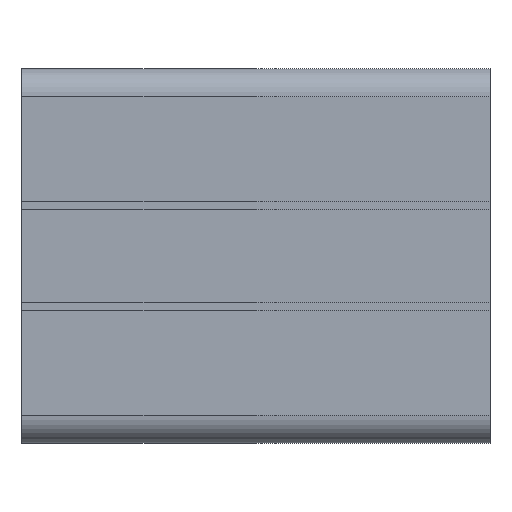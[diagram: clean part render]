
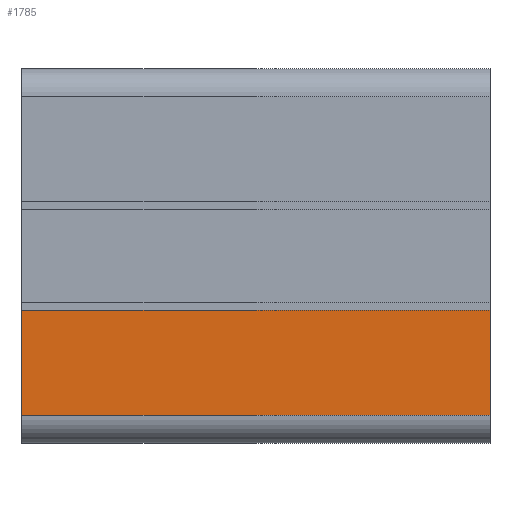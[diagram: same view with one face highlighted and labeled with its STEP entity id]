
A CAD part, front view. The second image highlights one B-rep face of the part: STEP entity #1785.
In plain terms, the highlighted planar face has unit normal (0, -1, 0).
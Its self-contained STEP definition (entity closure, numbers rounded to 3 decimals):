
#1785=ADVANCED_FACE('',(#5035),#5036,.T.);
#1991=EDGE_CURVE('',#4435,#2537,#5254,.T.);
#2537=VERTEX_POINT('',#5844);
#2901=VERTEX_POINT('',#6243);
#3099=VERTEX_POINT('',#6464);
#3443=EDGE_CURVE('',#4435,#3099,#6847,.T.);
#3655=EDGE_CURVE('',#2901,#2537,#7073,.T.);
#4333=EDGE_CURVE('',#3099,#2901,#7807,.T.);
#4435=VERTEX_POINT('',#7918);
#5035=FACE_OUTER_BOUND('',#8624,.T.);
#5036=PLANE('',#8625);
#5254=LINE('',#8957,#8958);
#5844=CARTESIAN_POINT('',(50.0,-60.0,-5.8));
#6243=CARTESIAN_POINT('',(50.0,-60.0,-17.0));
#6464=CARTESIAN_POINT('',(0.0,-60.0,-17.0));
#6847=LINE('',#11221,#11222);
#7073=LINE('',#11542,#11543);
#7807=LINE('',#12631,#12632);
#7918=CARTESIAN_POINT('',(0.0,-60.0,-5.8));
#8624=EDGE_LOOP('',(#13599,#13600,#13601,#13602));
#8625=AXIS2_PLACEMENT_3D('',#13603,#13604,#13605);
#8957=CARTESIAN_POINT('',(0.0,-60.0,-5.8));
#8958=VECTOR('',#13771,1.0);
#11221=CARTESIAN_POINT('',(0.0,-60.0,-5.8));
#11222=VECTOR('',#15661,1.0);
#11542=CARTESIAN_POINT('',(50.0,-60.0,-5.8));
#11543=VECTOR('',#15833,1.0);
#12631=CARTESIAN_POINT('',(0.0,-60.0,-17.0));
#12632=VECTOR('',#16486,1.0);
#13599=ORIENTED_EDGE('',*,*,#3655,.T.);
#13600=ORIENTED_EDGE('',*,*,#1991,.F.);
#13601=ORIENTED_EDGE('',*,*,#3443,.T.);
#13602=ORIENTED_EDGE('',*,*,#4333,.T.);
#13603=CARTESIAN_POINT('',(0.0,-60.0,-17.0));
#13604=DIRECTION('',(0.0,-1.0,0.0));
#13605=DIRECTION('',(0.0,0.0,-1.0));
#13771=DIRECTION('',(1.0,0.0,0.0));
#15661=DIRECTION('',(0.0,0.0,-1.0));
#15833=DIRECTION('',(0.0,0.0,1.0));
#16486=DIRECTION('',(1.0,0.0,0.0));
